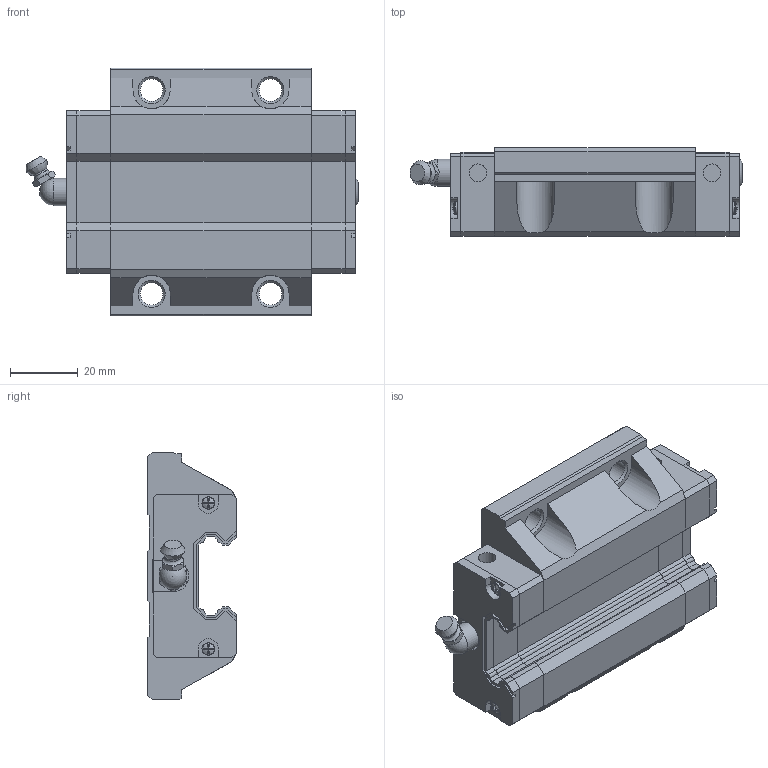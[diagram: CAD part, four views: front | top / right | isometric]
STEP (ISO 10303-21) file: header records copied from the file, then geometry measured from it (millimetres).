
FILE_DESCRIPTION(('FreeCAD Model'),'2;1');
FILE_NAME('Open CASCADE Shape Model','2024-12-05T11:32:15',('Author'),( ''),'Open CASCADE STEP processor 7.6','FreeCAD','Unknown');
FILE_SCHEMA(('AUTOMOTIVE_DESIGN { 1 0 10303 214 1 1 1 1 }'));
Length unit declared in the file: millimetre
Products named in the file (7): EW25CC; _GEW25CC_slider; _GEC25_C; _GEC25_P; _GH25_SCREW; _GH25_BOLT; _GH25-_G
Assembly tree (11 placements, depth 2):
  EW25CC
    _GEW25CC_slider
    _GEC25_C  x2
    _GEC25_P  x2
    _GH25_SCREW  x4
    _GH25_BOLT
    _GH25-_G
Bounding box: 97.8 x 26.1 x 73 mm (x, y, z)
Volume: 104073.2 mm3; surface area: 30032.3 mm2
Topology: 11 solids, 11 shells, 410 faces, 1101 edges, 723 vertices
Faces by surface type: plane 319, cylinder 55, cone 24, torus 6, sphere 5, bspline 1
Full cylindrical faces by diameter (mm): 2.2 x4, 3.725 x4, 4.5 x1, 5.2 x4, 6 x2, 6.5 x2, 6.647 x4, 7.4 x2, 8 x1, 8.2 x1
Entity records: 8055 total; most frequent: CARTESIAN_POINT 1567, ORIENTED_EDGE 1330, DIRECTION 1245, EDGE_CURVE 665, LINE 479, VECTOR 479, VERTEX_POINT 435, AXIS2_PLACEMENT_3D 383
